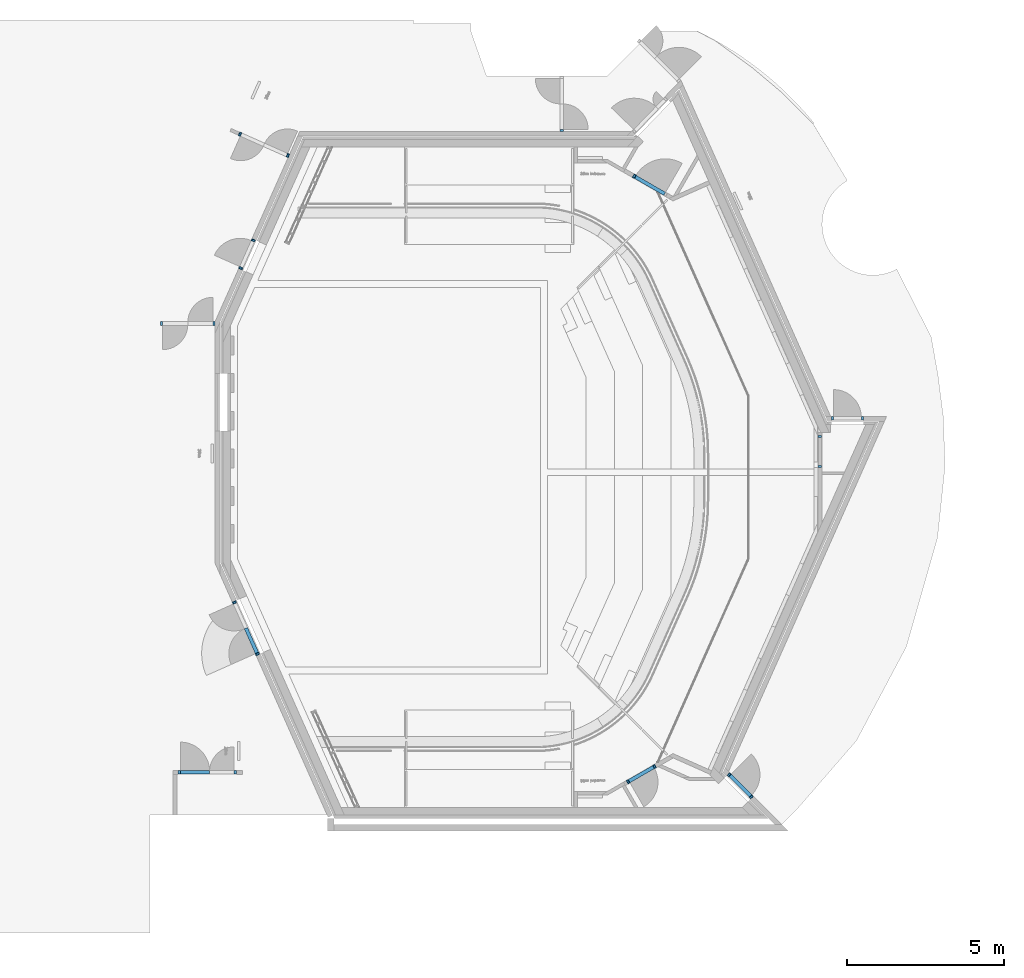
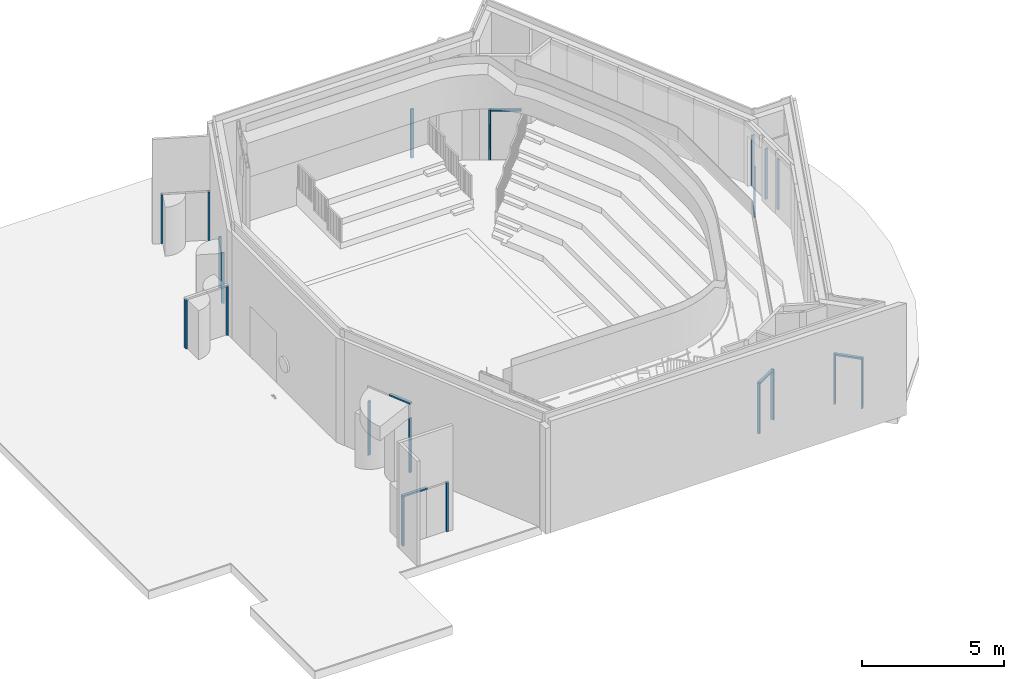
# One storey, part 3 of 19: 25 members, 11 elements without a shape of their own.
"""IFC2X3 building model written with IfcOpenShell, lengths in millimetres."""

from ifc_helpers import new_model, entity, si_unit, converted_unit, derived_unit, direction, frame, origin, origin_2d_with_axis, place, context, subcontext, project, spatial, rectangle, extrude, source, transform, mapped, material, type_object, type_shapes, element, aggregate, save


model = new_model("IFC2X3")

# Units and contexts
model_context = context("Model", 3, precision=0.01, world=origin(), true_north=direction((6.123031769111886e-17, 1.0)))
body_context = subcontext(model_context, "Body", "Model", "MODEL_VIEW")
ifc_project = project(units=[si_unit("LENGTHUNIT", "METRE", prefix="MILLI"), si_unit("AREAUNIT", "SQUARE_METRE"), si_unit("VOLUMEUNIT", "CUBIC_METRE"), converted_unit("PLANEANGLEUNIT", "DEGREE", entity("IfcRatioMeasure", 0.017453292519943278), si_unit("PLANEANGLEUNIT", "RADIAN"), dimensions=[0, 0, 0, 0, 0, 0, 0]), si_unit("MASSUNIT", "GRAM", prefix="KILO"), derived_unit("MASSDENSITYUNIT", [(si_unit("MASSUNIT", "GRAM", prefix="KILO"), 1), (si_unit("LENGTHUNIT", "METRE"), -3)]), derived_unit("MOMENTOFINERTIAUNIT", [(si_unit("LENGTHUNIT", "METRE"), 4)]), si_unit("TIMEUNIT", "SECOND"), si_unit("FREQUENCYUNIT", "HERTZ"), si_unit("THERMODYNAMICTEMPERATUREUNIT", "DEGREE_CELSIUS"), derived_unit("THERMALTRANSMITTANCEUNIT", [(si_unit("MASSUNIT", "GRAM", prefix="KILO"), 1), (si_unit("THERMODYNAMICTEMPERATUREUNIT", "KELVIN"), -1), (si_unit("TIMEUNIT", "SECOND"), -3)]), derived_unit("VOLUMETRICFLOWRATEUNIT", [(si_unit("LENGTHUNIT", "METRE"), 3), (si_unit("TIMEUNIT", "SECOND"), -1)]), derived_unit("MASSFLOWRATEUNIT", [(si_unit("MASSUNIT", "GRAM", prefix="KILO"), 1), (si_unit("TIMEUNIT", "SECOND"), -1)]), derived_unit("ROTATIONALFREQUENCYUNIT", [(si_unit("TIMEUNIT", "SECOND"), -1)]), si_unit("ELECTRICCURRENTUNIT", "AMPERE"), si_unit("ELECTRICVOLTAGEUNIT", "VOLT"), si_unit("POWERUNIT", "WATT"), si_unit("FORCEUNIT", "NEWTON", prefix="KILO"), si_unit("ILLUMINANCEUNIT", "LUX"), si_unit("LUMINOUSFLUXUNIT", "LUMEN"), si_unit("LUMINOUSINTENSITYUNIT", "CANDELA"), derived_unit("USERDEFINED", [(si_unit("MASSUNIT", "GRAM", prefix="KILO"), -1), (si_unit("LENGTHUNIT", "METRE"), -2), (si_unit("TIMEUNIT", "SECOND"), 3), (si_unit("LUMINOUSFLUXUNIT", "LUMEN"), 1)]), derived_unit("SOUNDPOWERUNIT", [(si_unit("MASSUNIT", "GRAM", prefix="KILO"), 1), (si_unit("LENGTHUNIT", "METRE"), 2), (si_unit("TIMEUNIT", "SECOND"), -3)]), derived_unit("SOUNDPRESSUREUNIT", [(si_unit("MASSUNIT", "GRAM", prefix="KILO"), 1), (si_unit("LENGTHUNIT", "METRE"), -1), (si_unit("TIMEUNIT", "SECOND"), -2)]), derived_unit("LINEARVELOCITYUNIT", [(si_unit("LENGTHUNIT", "METRE"), 1), (si_unit("TIMEUNIT", "SECOND"), -1)]), si_unit("PRESSUREUNIT", "PASCAL"), derived_unit("USERDEFINED", [(si_unit("LENGTHUNIT", "METRE"), -2), (si_unit("MASSUNIT", "GRAM", prefix="KILO"), 1), (si_unit("TIMEUNIT", "SECOND"), -2)]), derived_unit("LINEARFORCEUNIT", [(si_unit("MASSUNIT", "GRAM", prefix="KILO"), 1), (si_unit("LENGTHUNIT", "METRE"), 1), (si_unit("TIMEUNIT", "SECOND"), -2), (si_unit("LENGTHUNIT", "METRE"), -1)]), derived_unit("PLANARFORCEUNIT", [(si_unit("MASSUNIT", "GRAM", prefix="KILO"), 1), (si_unit("LENGTHUNIT", "METRE"), 1), (si_unit("TIMEUNIT", "SECOND"), -2), (si_unit("LENGTHUNIT", "METRE"), -2)])], contexts=[model_context])

# Site, building, storey
site_placement = place(None, frame((-10000.0, -10000.0, 0.0)))
site = spatial("IfcSite", under=ifc_project, at=site_placement, Name="Default", CompositionType="ELEMENT")
building_placement = place(site_placement, origin())
building = spatial("IfcBuilding", under=site, at=building_placement, CompositionType="ELEMENT")
storey_placement = place(building_placement, frame((0.0, 0.0, 4200.0)))
storey = spatial("IfcBuildingStorey", under=building, at=storey_placement, Name="01 1e verdieping", CompositionType="ELEMENT", Elevation=4200.000000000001)

# Curtain wall, member
curtain_wall_type = type_object("IfcCurtainWallType", Name="Curtain Wall:NLRS_32_CWA_houten binnenkozijnen ts90_ags", PredefinedType="NOTDEFINED")
curtain_wall_1_placement = place(storey_placement, frame((0.0, 0.0, -4200.0)))
curtain_wall_1 = element("IfcCurtainWall", 1, at=curtain_wall_1_placement, inside=storey, type_object=curtain_wall_type, Name="Curtain Wall:NLRS_32_CWA_houten binnenkozijnen ts90_ags", ObjectType="Curtain Wall:NLRS_32_CWA_houten binnenkozijnen ts90_ags")
ifc_material = material(Name="<Unnamed>")
member_type_1 = type_object("IfcMemberType", Name="Rectangular Mullion:NLRS_32_CWM_hout 114x67_ags", PredefinedType="MULLION", material=ifc_material)
shared_shape_1 = source(origin(), body_context, "Body", "SweptSolid", [
    extrude(rectangle(XDim=114.0, YDim=67.0, at=origin_2d_with_axis()), frame((-33.5, 0.0, -2103.0), z_axis=(0.0, 0.0, 1.0), x_axis=(0.0, -1.0, 0.0)), (0.0, 0.0, 1.0), 2103.0),
])
type_shapes(member_type_1, [shared_shape_1])
member_1_placement = place(curtain_wall_1_placement, frame((36317.06459566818, 49652.0, 4200.0), z_axis=(0.0, 0.0, -1.0), x_axis=(0.0, -1.0, 0.0)))
member_1 = element("IfcMember", 2, at=member_1_placement, type_object=member_type_1, material=ifc_material, Name="Rectangular Mullion:NLRS_32_CWM_hout 114x67_ags", ObjectType="Rectangular Mullion:NLRS_32_CWM_hout 114x67_ags", context=body_context, shape_type="MappedRepresentation", body=[
    mapped(shared_shape_1, transform((0.0, 0.0, 0.0), scale=1.0)),
])
aggregate(curtain_wall_1, [member_1])

curtain_wall_2_placement = place(storey_placement, frame((0.0, 0.0, -4200.0)))
curtain_wall_2 = element("IfcCurtainWall", 3, at=curtain_wall_2_placement, inside=storey, type_object=curtain_wall_type, Name="Curtain Wall:NLRS_32_CWA_houten binnenkozijnen ts90_ags", ObjectType="Curtain Wall:NLRS_32_CWA_houten binnenkozijnen ts90_ags")
member_2_placement = place(curtain_wall_2_placement, frame((27625.41358242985, 48871.82759171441, 4200.0), z_axis=(0.0, 0.0, -1.0), x_axis=(0.9135454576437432, -0.4067366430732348, 0.0)))
member_2 = element("IfcMember", 4, at=member_2_placement, type_object=member_type_1, material=ifc_material, Name="Rectangular Mullion:NLRS_32_CWM_hout 114x67_ags", ObjectType="Rectangular Mullion:NLRS_32_CWM_hout 114x67_ags", context=body_context, shape_type="MappedRepresentation", body=[
    mapped(shared_shape_1, transform((0.0, 0.0, 0.0), scale=1.0)),
])

curtain_wall_3_placement = place(storey_placement, frame((0.0, 0.0, -4200.0)))
curtain_wall_3 = element("IfcCurtainWall", 5, at=curtain_wall_3_placement, inside=storey, type_object=curtain_wall_type, Name="Curtain Wall:NLRS_32_CWA_houten binnenkozijnen ts90_ags", ObjectType="Curtain Wall:NLRS_32_CWA_houten binnenkozijnen ts90_ags")
member_3_placement = place(curtain_wall_3_placement, frame((25275.0, 43535.712250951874, 4200.0), z_axis=(0.0, 0.0, -1.0), x_axis=(1.0, 0.0, 0.0)))
member_3 = element("IfcMember", 6, at=member_3_placement, type_object=member_type_1, material=ifc_material, Name="Rectangular Mullion:NLRS_32_CWM_hout 114x67_ags", ObjectType="Rectangular Mullion:NLRS_32_CWM_hout 114x67_ags", context=body_context, shape_type="MappedRepresentation", body=[
    mapped(shared_shape_1, transform((0.0, 0.0, 0.0), scale=1.0)),
])

# Member
member_type_2 = type_object("IfcMemberType", Name="Rectangular Mullion:NLRS_32_CWM_hout 114x67_ags", PredefinedType="MULLION", material=ifc_material)
shared_shape_2 = source(origin(), body_context, "Body", "SweptSolid", [
    extrude(rectangle(XDim=114.0, YDim=67.0, at=origin_2d_with_axis()), frame((-33.5, 0.0, -2103.0), z_axis=(0.0, 0.0, 1.0), x_axis=(0.0, -1.0, 0.0)), (0.0, 0.0, 1.0), 2103.0000000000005),
])
type_shapes(member_type_2, [shared_shape_2])
member_4_placement = place(curtain_wall_2_placement, frame((26040.73640586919, 49577.371327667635, 6303.0), z_axis=(0.0, 0.0, 1.0), x_axis=(-0.9135454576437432, 0.4067366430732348, 0.0)))
member_4 = element("IfcMember", 7, at=member_4_placement, type_object=member_type_2, material=ifc_material, Name="Rectangular Mullion:NLRS_32_CWM_hout 114x67_ags", ObjectType="Rectangular Mullion:NLRS_32_CWM_hout 114x67_ags", context=body_context, shape_type="MappedRepresentation", body=[
    mapped(shared_shape_2, transform((0.0, 0.0, 0.0), scale=1.0)),
])

aggregate(curtain_wall_2, [member_2, member_4])

member_5_placement = place(curtain_wall_3_placement, frame((23540.35487250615, 43535.712250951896, 6303.0), z_axis=(0.0, 0.0, 1.0), x_axis=(-1.0, 0.0, 0.0)))
member_5 = element("IfcMember", 8, at=member_5_placement, type_object=member_type_2, material=ifc_material, Name="Rectangular Mullion:NLRS_32_CWM_hout 114x67_ags", ObjectType="Rectangular Mullion:NLRS_32_CWM_hout 114x67_ags", context=body_context, shape_type="MappedRepresentation", body=[
    mapped(shared_shape_2, transform((0.0, 0.0, 0.0), scale=1.0)),
])

aggregate(curtain_wall_3, [member_3, member_5])

# Curtain wall, member
curtain_wall_4_placement = place(storey_placement, frame((0.0, 0.0, -4200.0)))
curtain_wall_4 = element("IfcCurtainWall", 9, at=curtain_wall_4_placement, inside=storey, type_object=curtain_wall_type, Name="Curtain Wall:NLRS_32_CWA_houten binnenkozijnen ts90_ags", ObjectType="Curtain Wall:NLRS_32_CWA_houten binnenkozijnen ts90_ags")
member_type_3 = type_object("IfcMemberType", Name="Rectangular Mullion:NLRS_32_CWM_hout 114x67_ags", PredefinedType="MULLION", material=ifc_material)
shared_shape_3 = source(origin(), body_context, "Body", "SweptSolid", [
    extrude(rectangle(XDim=114.0, YDim=67.0, at=origin_2d_with_axis()), frame((-33.5, 0.0, -1086.0), z_axis=(0.0, 0.0, 1.0), x_axis=(0.0, -1.0, 0.0)), (0.0, 0.0, 1.0), 1085.9999999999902),
])
type_shapes(member_type_3, [shared_shape_3])
member_6_placement = place(curtain_wall_4_placement, frame((39593.73196394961, 47663.85813120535, 6370.0), z_axis=(0.8660254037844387, -0.5000000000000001, 0.0), x_axis=(0.0, 0.0, 1.0)))
member_6 = element("IfcMember", 10, at=member_6_placement, type_object=member_type_3, material=ifc_material, Name="Rectangular Mullion:NLRS_32_CWM_hout 114x67_ags", ObjectType="Rectangular Mullion:NLRS_32_CWM_hout 114x67_ags", context=body_context, shape_type="MappedRepresentation", body=[
    mapped(shared_shape_3, transform((0.0, 0.0, 0.0), scale=1.0)),
])

curtain_wall_5_placement = place(storey_placement, frame((0.0, 0.0, -4200.0)))
curtain_wall_5 = element("IfcCurtainWall", 11, at=curtain_wall_5_placement, inside=storey, type_object=curtain_wall_type, Name="Curtain Wall:NLRS_32_CWA_houten binnenkozijnen ts90_ags", ObjectType="Curtain Wall:NLRS_32_CWA_houten binnenkozijnen ts90_ags")
member_type_4 = type_object("IfcMemberType", Name="Rectangular Mullion:NLRS_32_CWM_hout 114x67_ags", PredefinedType="MULLION", material=ifc_material)
shared_shape_4 = source(origin(), body_context, "Body", "SweptSolid", [
    extrude(rectangle(XDim=114.0, YDim=67.0, at=origin_2d_with_axis()), frame((-33.5, 0.0, -2170.0), z_axis=(0.0, 0.0, 1.0), x_axis=(0.0, -1.0, 0.0)), (0.0, 0.0, 1.0), 2170.0),
])
type_shapes(member_type_4, [shared_shape_4])
member_7_placement = place(curtain_wall_5_placement, frame((45923.57361464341, 40510.97902798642, 4200.0), z_axis=(0.0, 0.0, -1.0), x_axis=(1.0, 0.0, 0.0)))
member_7 = element("IfcMember", 12, at=member_7_placement, type_object=member_type_4, material=ifc_material, Name="Rectangular Mullion:NLRS_32_CWM_hout 114x67_ags", ObjectType="Rectangular Mullion:NLRS_32_CWM_hout 114x67_ags", context=body_context, shape_type="MappedRepresentation", body=[
    mapped(shared_shape_4, transform((0.0, 0.0, 0.0), scale=1.0)),
])

curtain_wall_6_placement = place(storey_placement, frame((0.0, 0.0, -4200.0)))
curtain_wall_6 = element("IfcCurtainWall", 13, at=curtain_wall_6_placement, inside=storey, type_object=curtain_wall_type, Name="Curtain Wall:NLRS_32_CWA_houten binnenkozijnen ts90_ags", ObjectType="Curtain Wall:NLRS_32_CWA_houten binnenkozijnen ts90_ags")
member_8_placement = place(curtain_wall_6_placement, frame((26505.094596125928, 46215.41012982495, 4200.0), z_axis=(0.0, 0.0, -1.0), x_axis=(0.40673664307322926, 0.9135454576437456, 0.0)))
member_8 = element("IfcMember", 14, at=member_8_placement, type_object=member_type_4, material=ifc_material, Name="Rectangular Mullion:NLRS_32_CWM_hout 114x67_ags", ObjectType="Rectangular Mullion:NLRS_32_CWM_hout 114x67_ags", context=body_context, shape_type="MappedRepresentation", body=[
    mapped(shared_shape_4, transform((0.0, 0.0, 0.0), scale=1.0)),
])

curtain_wall_7_placement = place(storey_placement, frame((0.0, 0.0, -4200.0)))
curtain_wall_7 = element("IfcCurtainWall", 15, at=curtain_wall_7_placement, inside=storey, type_object=curtain_wall_type, Name="Curtain Wall:NLRS_32_CWA_houten binnenkozijnen ts90_ags", ObjectType="Curtain Wall:NLRS_32_CWA_houten binnenkozijnen ts90_ags")
member_9_placement = place(curtain_wall_7_placement, frame((42379.75236599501, 28438.24830376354, 4200.0), z_axis=(0.0, 0.0, -1.0), x_axis=(0.7071067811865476, -0.7071067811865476, 0.0)))
member_9 = element("IfcMember", 16, at=member_9_placement, type_object=member_type_4, material=ifc_material, Name="Rectangular Mullion:NLRS_32_CWM_hout 114x67_ags", ObjectType="Rectangular Mullion:NLRS_32_CWM_hout 114x67_ags", context=body_context, shape_type="MappedRepresentation", body=[
    mapped(shared_shape_4, transform((0.0, 0.0, 0.0), scale=1.0)),
])

curtain_wall_8_placement = place(storey_placement, frame((0.0, 0.0, -4200.0)))
curtain_wall_8 = element("IfcCurtainWall", 17, at=curtain_wall_8_placement, inside=storey, type_object=curtain_wall_type, Name="Curtain Wall:NLRS_32_CWA_houten binnenkozijnen ts90_ags", ObjectType="Curtain Wall:NLRS_32_CWA_houten binnenkozijnen ts90_ags")
member_10_placement = place(curtain_wall_8_placement, frame((44537.49999999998, 39967.97902798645, 6045.0), z_axis=(0.0, 0.0, -1.0), x_axis=(0.0, 1.0, 0.0)))
member_10 = element("IfcMember", 18, at=member_10_placement, type_object=member_type_4, material=ifc_material, Name="Rectangular Mullion:NLRS_32_CWM_hout 114x67_ags", ObjectType="Rectangular Mullion:NLRS_32_CWM_hout 114x67_ags", context=body_context, shape_type="MappedRepresentation", body=[
    mapped(shared_shape_4, transform((0.0, 0.0, 0.0), scale=1.0)),
])

# Member
member_type_5 = type_object("IfcMemberType", Name="Rectangular Mullion:NLRS_32_CWM_hout 114x67_ags", PredefinedType="MULLION", material=ifc_material)
shared_shape_5 = source(origin(), body_context, "Body", "SweptSolid", [
    extrude(rectangle(XDim=114.0, YDim=67.0, at=origin_2d_with_axis()), frame((-33.5, 0.0, -2170.0), z_axis=(0.0, 0.0, 1.0), x_axis=(0.0, -1.0, 0.0)), (0.0, 0.0, 1.0), 2170.0000000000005),
])
type_shapes(member_type_5, [shared_shape_5])
member_11_placement = place(curtain_wall_4_placement, frame((38595.20467338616, 48240.35813120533, 6370.0), z_axis=(0.0, 0.0, 1.0), x_axis=(-0.8660254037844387, 0.5000000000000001, 0.0)))
member_11 = element("IfcMember", 19, at=member_11_placement, type_object=member_type_5, material=ifc_material, Name="Rectangular Mullion:NLRS_32_CWM_hout 114x67_ags", ObjectType="Rectangular Mullion:NLRS_32_CWM_hout 114x67_ags", context=body_context, shape_type="MappedRepresentation", body=[
    mapped(shared_shape_5, transform((0.0, 0.0, 0.0), scale=1.0)),
])

aggregate(curtain_wall_4, [member_6, member_11])

member_12_placement = place(curtain_wall_5_placement, frame((44903.57361464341, 40510.97902798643, 6370.0), z_axis=(0.0, 0.0, 1.0), x_axis=(-1.0, 0.0, 0.0)))
member_12 = element("IfcMember", 20, at=member_12_placement, type_object=member_type_5, material=ifc_material, Name="Rectangular Mullion:NLRS_32_CWM_hout 114x67_ags", ObjectType="Rectangular Mullion:NLRS_32_CWM_hout 114x67_ags", context=body_context, shape_type="MappedRepresentation", body=[
    mapped(shared_shape_5, transform((0.0, 0.0, 0.0), scale=1.0)),
])

aggregate(curtain_wall_5, [member_7, member_12])

member_13_placement = place(curtain_wall_6_placement, frame((26082.08848732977, 45265.322853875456, 6370.0), z_axis=(0.0, 0.0, 1.0), x_axis=(-0.40673664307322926, -0.9135454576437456, 0.0)))
member_13 = element("IfcMember", 21, at=member_13_placement, type_object=member_type_5, material=ifc_material, Name="Rectangular Mullion:NLRS_32_CWM_hout 114x67_ags", ObjectType="Rectangular Mullion:NLRS_32_CWM_hout 114x67_ags", context=body_context, shape_type="MappedRepresentation", body=[
    mapped(shared_shape_5, transform((0.0, 0.0, 0.0), scale=1.0)),
])

aggregate(curtain_wall_6, [member_8, member_13])

member_14_placement = place(curtain_wall_7_placement, frame((41626.68364403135, 29191.317025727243, 6370.0), z_axis=(0.0, 0.0, 1.0), x_axis=(-0.7071067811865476, 0.7071067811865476, 0.0)))
member_14 = element("IfcMember", 22, at=member_14_placement, type_object=member_type_5, material=ifc_material, Name="Rectangular Mullion:NLRS_32_CWM_hout 114x67_ags", ObjectType="Rectangular Mullion:NLRS_32_CWM_hout 114x67_ags", context=body_context, shape_type="MappedRepresentation", body=[
    mapped(shared_shape_5, transform((0.0, 0.0, 0.0), scale=1.0)),
])

member_15_placement = place(curtain_wall_8_placement, frame((44537.49999999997, 38947.97902798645, 8215.0), z_axis=(0.0, 0.0, 1.0), x_axis=(0.0, -1.0, 0.0)))
member_15 = element("IfcMember", 23, at=member_15_placement, type_object=member_type_5, material=ifc_material, Name="Rectangular Mullion:NLRS_32_CWM_hout 114x67_ags", ObjectType="Rectangular Mullion:NLRS_32_CWM_hout 114x67_ags", context=body_context, shape_type="MappedRepresentation", body=[
    mapped(shared_shape_5, transform((0.0, 0.0, 0.0), scale=1.0)),
])

aggregate(curtain_wall_8, [member_10, member_15])

# Curtain wall, members
curtain_wall_9_placement = place(storey_placement, frame((0.0, 0.0, -4200.0)))
curtain_wall_9 = element("IfcCurtainWall", 24, at=curtain_wall_9_placement, inside=storey, type_object=curtain_wall_type, Name="Curtain Wall:NLRS_32_CWA_houten binnenkozijnen ts90_ags", ObjectType="Curtain Wall:NLRS_32_CWA_houten binnenkozijnen ts90_ags")
member_type_6 = type_object("IfcMemberType", Name="Rectangular Mullion:NLRS_32_CWM_hout 114x67_ags", PredefinedType="MULLION", material=ifc_material)
shared_shape_6 = source(origin(), body_context, "Body", "SweptSolid", [
    extrude(rectangle(XDim=114.0, YDim=67.0, at=origin_2d_with_axis()), frame((-33.5, 0.0, -906.0), z_axis=(0.0, 0.0, 1.0), x_axis=(0.0, -1.0, 0.0)), (0.0, 0.0, 1.0), 906.0000000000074),
])
type_shapes(member_type_6, [shared_shape_6])
member_16_placement = place(curtain_wall_9_placement, frame((39242.991675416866, 29410.64186819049, 6370.0), z_axis=(0.8660254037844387, 0.5000000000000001, 0.0), x_axis=(0.0, 0.0, 1.0)))
member_16 = element("IfcMember", 25, at=member_16_placement, type_object=member_type_6, material=ifc_material, Name="Rectangular Mullion:NLRS_32_CWM_hout 114x67_ags", ObjectType="Rectangular Mullion:NLRS_32_CWM_hout 114x67_ags", context=body_context, shape_type="MappedRepresentation", body=[
    mapped(shared_shape_6, transform((0.0, 0.0, 0.0), scale=1.0)),
])
member_type_7 = type_object("IfcMemberType", Name="Rectangular Mullion:NLRS_32_CWM_hout 114x67_ags", PredefinedType="MULLION", material=ifc_material)
shared_shape_7 = source(origin(), body_context, "Body", "SweptSolid", [
    extrude(rectangle(XDim=114.0, YDim=67.0, at=origin_2d_with_axis()), frame((-33.5, 0.0, -2170.0), z_axis=(0.0, 0.0, 1.0), x_axis=(0.0, -1.0, 0.0)), (0.0, 0.0, 1.0), 2170.0),
])
type_shapes(member_type_7, [shared_shape_7])
member_17_placement = place(curtain_wall_9_placement, frame((39301.01537747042, 29444.14186819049, 4200.0), z_axis=(0.0, 0.0, -1.0), x_axis=(0.8660254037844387, 0.5000000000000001, 0.0)))
member_17 = element("IfcMember", 26, at=member_17_placement, type_object=member_type_7, material=ifc_material, Name="Rectangular Mullion:NLRS_32_CWM_hout 114x67_ags", ObjectType="Rectangular Mullion:NLRS_32_CWM_hout 114x67_ags", context=body_context, shape_type="MappedRepresentation", body=[
    mapped(shared_shape_7, transform((0.0, 0.0, 0.0), scale=1.0)),
])
member_type_8 = type_object("IfcMemberType", Name="Rectangular Mullion:NLRS_32_CWM_hout 114x67_ags", PredefinedType="MULLION", material=ifc_material)
shared_shape_8 = source(origin(), body_context, "Body", "SweptSolid", [
    extrude(rectangle(XDim=114.0, YDim=67.0, at=origin_2d_with_axis()), frame((-33.5, 0.0, -2170.0), z_axis=(0.0, 0.0, 1.0), x_axis=(0.0, -1.0, 0.0)), (0.0, 0.0, 1.0), 2170.0000000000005),
])
type_shapes(member_type_8, [shared_shape_8])
member_18_placement = place(curtain_wall_9_placement, frame((38400.3489575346, 28924.141868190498, 6370.0), z_axis=(0.0, 0.0, 1.0), x_axis=(-0.8660254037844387, -0.5000000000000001, 0.0)))
member_18 = element("IfcMember", 27, at=member_18_placement, type_object=member_type_8, material=ifc_material, Name="Rectangular Mullion:NLRS_32_CWM_hout 114x67_ags", ObjectType="Rectangular Mullion:NLRS_32_CWM_hout 114x67_ags", context=body_context, shape_type="MappedRepresentation", body=[
    mapped(shared_shape_8, transform((0.0, 0.0, 0.0), scale=1.0)),
])
aggregate(curtain_wall_9, [member_16, member_17, member_18])

curtain_wall_10_placement = place(storey_placement, frame((0.0, 0.0, -4200.0)))
curtain_wall_10 = element("IfcCurtainWall", 28, at=curtain_wall_10_placement, inside=storey, type_object=curtain_wall_type, Name="Curtain Wall:NLRS_32_CWA_houten binnenkozijnen ts90_ags", ObjectType="Curtain Wall:NLRS_32_CWA_houten binnenkozijnen ts90_ags")
member_type_9 = type_object("IfcMemberType", Name="Rectangular Mullion:NLRS_32_CWM_hout 114x67_ags", PredefinedType="MULLION", material=ifc_material)
shared_shape_9 = source(origin(), body_context, "Body", "SweptSolid", [
    extrude(rectangle(XDim=114.0, YDim=67.0, at=origin_2d_with_axis()), frame((-33.5, 0.0, -2320.0), z_axis=(0.0, 0.0, 1.0), x_axis=(0.0, -1.0, 0.0)), (0.0, 0.0, 1.0), 2319.999999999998),
])
type_shapes(member_type_9, [shared_shape_9])
member_19_placement = place(curtain_wall_10_placement, frame((25878.720165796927, 34684.26533785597, 4200.0), z_axis=(0.0, 0.0, -1.0), x_axis=(-0.40673664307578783, 0.9135454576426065, 0.0)))
member_19 = element("IfcMember", 29, at=member_19_placement, type_object=member_type_9, material=ifc_material, Name="Rectangular Mullion:NLRS_32_CWM_hout 114x67_ags", ObjectType="Rectangular Mullion:NLRS_32_CWM_hout 114x67_ags", context=body_context, shape_type="MappedRepresentation", body=[
    mapped(shared_shape_9, transform((0.0, 0.0, 0.0), scale=1.0)),
])
member_type_10 = type_object("IfcMemberType", Name="Rectangular Mullion:NLRS_32_CWM_hout 114x67_ags", PredefinedType="MULLION", material=ifc_material)
shared_shape_10 = source(origin(), body_context, "Body", "SweptSolid", [
    extrude(rectangle(XDim=114.0, YDim=67.0, at=origin_2d_with_axis()), frame((-33.5, 0.0, -932.4999999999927), z_axis=(0.0, 0.0, 1.0), x_axis=(0.0, -1.0, 0.0)), (0.0, 0.0, 1.0), 932.4999999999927),
])
type_shapes(member_type_10, [shared_shape_10])
member_20_placement = place(curtain_wall_10_placement, frame((26258.002085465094, 33832.384198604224, 7200.0), z_axis=(-0.4067366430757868, 0.9135454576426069, 0.0), x_axis=(0.0, 0.0, 1.0)))
member_20 = element("IfcMember", 30, at=member_20_placement, type_object=member_type_10, material=ifc_material, Name="Rectangular Mullion:NLRS_32_CWM_hout 114x67_ags", ObjectType="Rectangular Mullion:NLRS_32_CWM_hout 114x67_ags", context=body_context, shape_type="MappedRepresentation", body=[
    mapped(shared_shape_10, transform((0.0, 0.0, 0.0), scale=1.0)),
])
member_type_11 = type_object("IfcMemberType", Name="Rectangular Mullion:NLRS_32_CWM_hout 114x67_ags", PredefinedType="MULLION", material=ifc_material)
shared_shape_11 = source(origin(), body_context, "Body", "SweptSolid", [
    extrude(rectangle(XDim=114.0, YDim=67.0, at=origin_2d_with_axis()), frame((-33.5, 0.0, -2320.0), z_axis=(0.0, 0.0, 1.0), x_axis=(0.0, -1.0, 0.0)), (0.0, 0.0, 1.0), 2319.9999999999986),
])
type_shapes(member_type_11, [shared_shape_11])
member_21_placement = place(curtain_wall_10_placement, frame((26637.284005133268, 32980.50305935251, 6520.0), z_axis=(0.0, 0.0, 1.0), x_axis=(0.40673664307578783, -0.9135454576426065, 0.0)))
member_21 = element("IfcMember", 31, at=member_21_placement, type_object=member_type_11, material=ifc_material, Name="Rectangular Mullion:NLRS_32_CWM_hout 114x67_ags", ObjectType="Rectangular Mullion:NLRS_32_CWM_hout 114x67_ags", context=body_context, shape_type="MappedRepresentation", body=[
    mapped(shared_shape_11, transform((0.0, 0.0, 0.0), scale=1.0)),
])
aggregate(curtain_wall_10, [member_19, member_20, member_21])

# Member
member_type_12 = type_object("IfcMemberType", Name="Rectangular Mullion:NLRS_32_CWM_hout 114x67_ags", PredefinedType="MULLION", material=ifc_material)
shared_shape_12 = source(origin(), body_context, "Body", "SweptSolid", [
    extrude(rectangle(XDim=114.0, YDim=67.0, at=origin_2d_with_axis()), frame((-33.5, 0.0, -931.0), z_axis=(0.0, 0.0, 1.0), x_axis=(0.0, -1.0, 0.0)), (0.0, 0.0, 1.0), 931.0000000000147),
])
type_shapes(member_type_12, [shared_shape_12])
member_22_placement = place(curtain_wall_7_placement, frame((42332.37621165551, 28485.62445810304, 6370.0), z_axis=(0.7071067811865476, -0.7071067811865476, 0.0), x_axis=(0.0, 0.0, 1.0)))
member_22 = element("IfcMember", 32, at=member_22_placement, type_object=member_type_12, material=ifc_material, Name="Rectangular Mullion:NLRS_32_CWM_hout 114x67_ags", ObjectType="Rectangular Mullion:NLRS_32_CWM_hout 114x67_ags", context=body_context, shape_type="MappedRepresentation", body=[
    mapped(shared_shape_12, transform((0.0, 0.0, 0.0), scale=1.0)),
])

aggregate(curtain_wall_7, [member_22, member_9, member_14])

# Curtain wall, members
curtain_wall_11_placement = place(storey_placement, frame((0.0, 0.0, -4200.0)))
curtain_wall_11 = element("IfcCurtainWall", 33, at=curtain_wall_11_placement, inside=storey, type_object=curtain_wall_type, Name="Curtain Wall:NLRS_32_CWA_houten binnenkozijnen ts90_ags", ObjectType="Curtain Wall:NLRS_32_CWA_houten binnenkozijnen ts90_ags")
member_type_13 = type_object("IfcMemberType", Name="Rectangular Mullion:NLRS_32_CWM_hout 114x67_ags", PredefinedType="MULLION", material=ifc_material)
shared_shape_13 = source(origin(), body_context, "Body", "SweptSolid", [
    extrude(rectangle(XDim=114.0, YDim=67.0, at=origin_2d_with_axis()), frame((-33.5, 0.0, -2103.0), z_axis=(0.0, 0.0, 1.0), x_axis=(0.0, -1.0, 0.0)), (0.0, 0.0, 1.0), 2103.0),
])
type_shapes(member_type_13, [shared_shape_13])
member_23_placement = place(curtain_wall_11_placement, frame((25952.444399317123, 29237.4999996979, 4200.0), z_axis=(0.0, 0.0, -1.0), x_axis=(1.0, 0.0, 0.0)))
member_23 = element("IfcMember", 34, at=member_23_placement, type_object=member_type_13, material=ifc_material, Name="Rectangular Mullion:NLRS_32_CWM_hout 114x67_ags", ObjectType="Rectangular Mullion:NLRS_32_CWM_hout 114x67_ags", context=body_context, shape_type="MappedRepresentation", body=[
    mapped(shared_shape_13, transform((0.0, 0.0, 0.0), scale=1.0)),
])
member_type_14 = type_object("IfcMemberType", Name="Rectangular Mullion:NLRS_32_CWM_hout 114x67_ags", PredefinedType="MULLION", material=ifc_material)
shared_shape_14 = source(origin(), body_context, "Body", "SweptSolid", [
    extrude(rectangle(XDim=114.0, YDim=67.0, at=origin_2d_with_axis()), frame((-33.5, 0.0, -2103.0), z_axis=(0.0, 0.0, 1.0), x_axis=(0.0, -1.0, 0.0)), (0.0, 0.0, 1.0), 2103.0000000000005),
])
type_shapes(member_type_14, [shared_shape_14])
member_24_placement = place(curtain_wall_11_placement, frame((24102.44439931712, 29237.4999996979, 6303.0), z_axis=(0.0, 0.0, 1.0), x_axis=(-1.0, 0.0, 0.0)))
member_24 = element("IfcMember", 35, at=member_24_placement, type_object=member_type_14, material=ifc_material, Name="Rectangular Mullion:NLRS_32_CWM_hout 114x67_ags", ObjectType="Rectangular Mullion:NLRS_32_CWM_hout 114x67_ags", context=body_context, shape_type="MappedRepresentation", body=[
    mapped(shared_shape_14, transform((0.0, 0.0, 0.0), scale=1.0)),
])
member_type_15 = type_object("IfcMemberType", Name="Rectangular Mullion:NLRS_32_CWM_hout 114x67_ags", PredefinedType="MULLION", material=ifc_material)
shared_shape_15 = source(origin(), body_context, "Body", "SweptSolid", [
    extrude(rectangle(XDim=114.0, YDim=67.0, at=origin_2d_with_axis()), frame((-33.5, 0.0, -1000.0), z_axis=(0.0, 0.0, 1.0), x_axis=(0.0, -1.0, 0.0)), (0.0, 0.0, 1.0), 999.999999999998),
])
type_shapes(member_type_15, [shared_shape_15])
member_25_placement = place(curtain_wall_11_placement, frame((25102.444399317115, 29237.4999996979, 6370.0), z_axis=(1.0, 0.0, 0.0), x_axis=(0.0, 0.0, 1.0)))
member_25 = element("IfcMember", 36, at=member_25_placement, type_object=member_type_15, material=ifc_material, Name="Rectangular Mullion:NLRS_32_CWM_hout 114x67_ags", ObjectType="Rectangular Mullion:NLRS_32_CWM_hout 114x67_ags", context=body_context, shape_type="MappedRepresentation", body=[
    mapped(shared_shape_15, transform((0.0, 0.0, 0.0), scale=1.0)),
])
aggregate(curtain_wall_11, [member_23, member_24, member_25])

save(model, "model.ifc")
